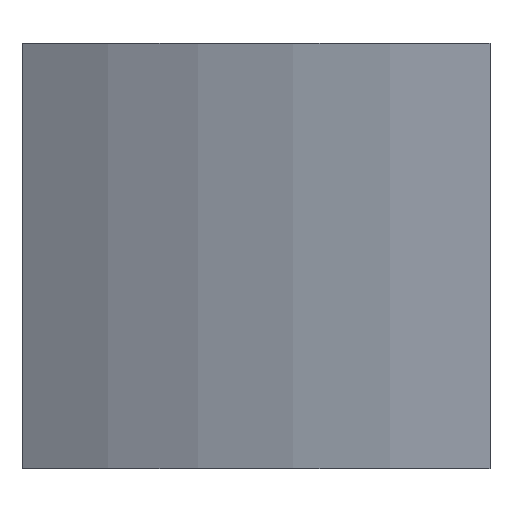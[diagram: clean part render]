
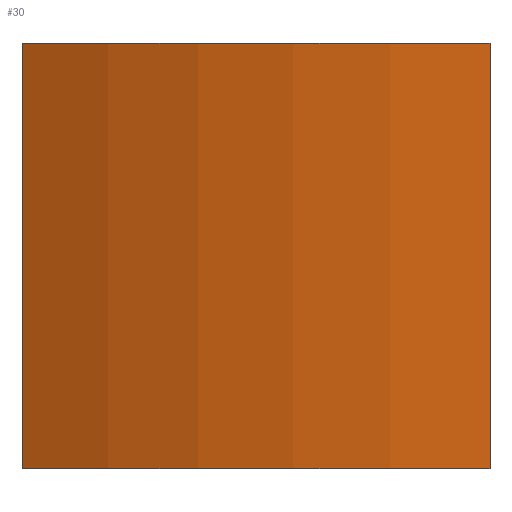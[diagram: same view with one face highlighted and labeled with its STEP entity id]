
A CAD part, top view. The second image highlights one B-rep face of the part: STEP entity #30.
In plain terms, the highlighted cylindrical face has radius 1155 mm (diameter 2310 mm), a partial arc.
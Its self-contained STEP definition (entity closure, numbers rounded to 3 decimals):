
#30 = ADVANCED_FACE( '', ( #59 ), #60, .T. );
#59 = FACE_OUTER_BOUND( '', #84, .T. );
#60 = CYLINDRICAL_SURFACE( '', #85, 1155. );
#84 = EDGE_LOOP( '', ( #103, #104, #105, #106 ) );
#85 = AXIS2_PLACEMENT_3D( '', #107, #108, #109 );
#103 = ORIENTED_EDGE( '', *, *, #151, .F. );
#104 = ORIENTED_EDGE( '', *, *, #152, .F. );
#105 = ORIENTED_EDGE( '', *, *, #153, .T. );
#106 = ORIENTED_EDGE( '', *, *, #154, .T. );
#107 = CARTESIAN_POINT( '', ( 710.016, -500., -945.227 ) );
#108 = DIRECTION( '', ( 0., -1., 0. ) );
#109 = DIRECTION( '', ( 0., 0., 1. ) );
#151 = EDGE_CURVE( '', #169, #170, #171, .T. );
#152 = EDGE_CURVE( '', #172, #169, #173, .T. );
#153 = EDGE_CURVE( '', #172, #174, #175, .T. );
#154 = EDGE_CURVE( '', #174, #170, #176, .T. );
#169 = VERTEX_POINT( '', #195 );
#170 = VERTEX_POINT( '', #196 );
#171 = CIRCLE( '', #197, 1155. );
#172 = VERTEX_POINT( '', #198 );
#173 = LINE( '', #199, #200 );
#174 = VERTEX_POINT( '', #201 );
#175 = CIRCLE( '', #202, 1155. );
#176 = LINE( '', #203, #204 );
#195 = CARTESIAN_POINT( '', ( 55., 0., 6.077 ) );
#196 = CARTESIAN_POINT( '', ( 605.006, 0., 204.989 ) );
#197 = AXIS2_PLACEMENT_3D( '', #228, #229, #230 );
#198 = CARTESIAN_POINT( '', ( 55., -500., 6.077 ) );
#199 = CARTESIAN_POINT( '', ( 55., -500., 6.077 ) );
#200 = VECTOR( '', #231, 1000. );
#201 = CARTESIAN_POINT( '', ( 605.006, -500., 204.989 ) );
#202 = AXIS2_PLACEMENT_3D( '', #232, #233, #234 );
#203 = CARTESIAN_POINT( '', ( 605.006, -500., 204.989 ) );
#204 = VECTOR( '', #235, 1000. );
#228 = CARTESIAN_POINT( '', ( 710.016, 0., -945.227 ) );
#229 = DIRECTION( '', ( 0., 1., 0. ) );
#230 = DIRECTION( '', ( 0., 0., 1. ) );
#231 = DIRECTION( '', ( 0., 1., 0. ) );
#232 = CARTESIAN_POINT( '', ( 710.016, -500., -945.227 ) );
#233 = DIRECTION( '', ( 0., 1., 0. ) );
#234 = DIRECTION( '', ( 0., 0., 1. ) );
#235 = DIRECTION( '', ( 0., 1., 0. ) );
